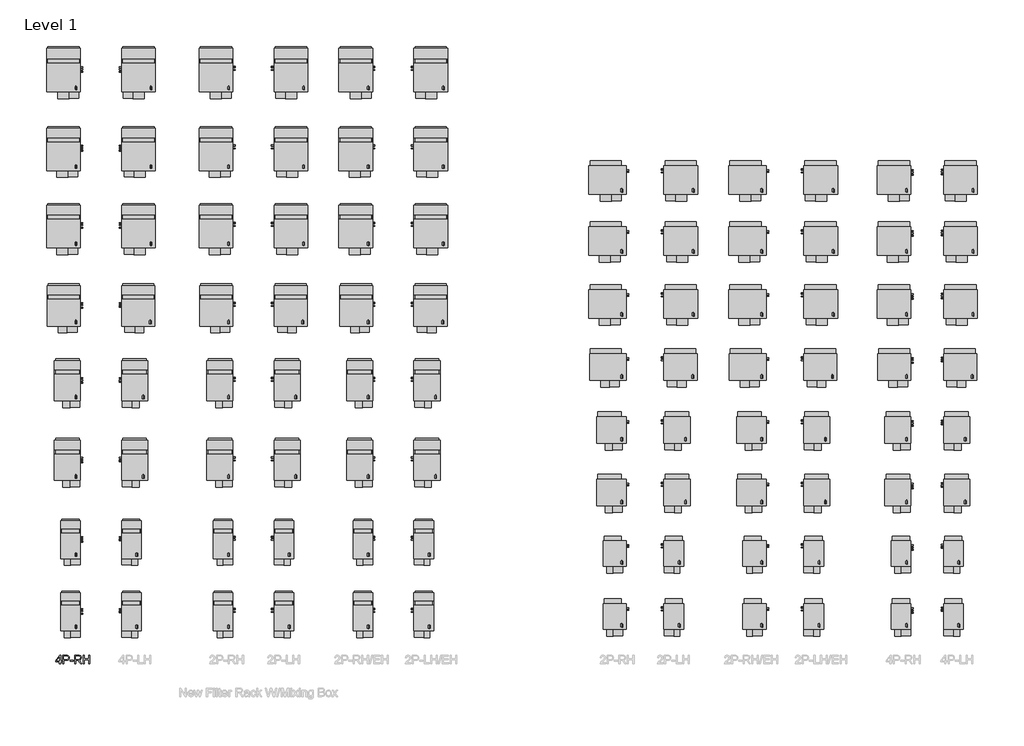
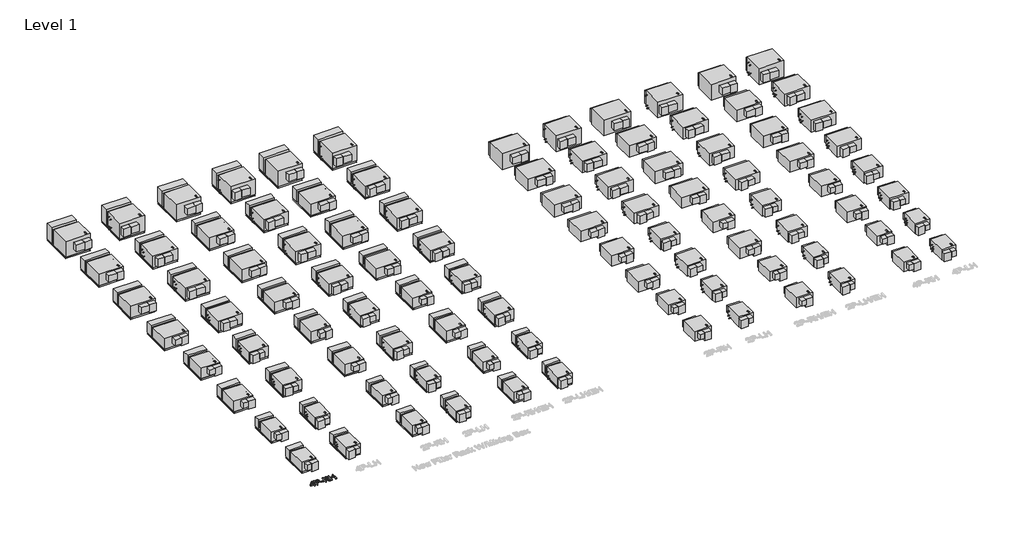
# One storey, part 1 of 3: 97 proxies.
"""IFC4 building model written with IfcOpenShell, lengths in millimetres."""

from ifc_helpers import new_model, si_unit, frame, origin, place, context, project, spatial, polyline, outline, extrude, transform, mapped, element, save
from components import mechanical_equipment_8757fcb0, mechanical_equipment_e5999960, mechanical_equipment_8dee2617, mechanical_equipment_acc0227f, mechanical_equipment_dd2f1071, mechanical_equipment_03528db8, mechanical_equipment_3913f591, mechanical_equipment_24ed6f7e, mechanical_equipment_7bdb9abd, mechanical_equipment_6c92dabb, mechanical_equipment_558debcf, mechanical_equipment_31d6afd8, mechanical_equipment_201a702f, mechanical_equipment_2c99bc06, mechanical_equipment_42976cbd, mechanical_equipment_1f7e3544, mechanical_equipment_957e46f4, mechanical_equipment_002d5dee, mechanical_equipment_a58ec341, mechanical_equipment_0533dc98, mechanical_equipment_0df3803a, mechanical_equipment_ec97a2d1, mechanical_equipment_5c8f0047, mechanical_equipment_04050eff, mechanical_equipment_0cbba81f, mechanical_equipment_6d997ccb, mechanical_equipment_a0d32894, mechanical_equipment_fb961167, mechanical_equipment_b7b7ae08, mechanical_equipment_c2c5c093, mechanical_equipment_a33fc95e, mechanical_equipment_a2eb8fe1, mechanical_equipment_3e75f2be, mechanical_equipment_6e24a03b, mechanical_equipment_debe2f92, mechanical_equipment_fb196a7a, mechanical_equipment_6874a00f, mechanical_equipment_16203f2d, mechanical_equipment_916fd69d, mechanical_equipment_2c5130ff

model = new_model("IFC4")

# Units and contexts
model_context = context("Model", 3, world=origin())
ifc_project = project(units=[si_unit("LENGTHUNIT", "METRE", prefix="MILLI")], contexts=[model_context])

# Site, building, storey
site = spatial("IfcSite", under=ifc_project)
building = spatial("IfcBuilding", under=site)
storey = spatial("IfcBuildingStorey", under=building, Name="Level 1", Elevation=0.0)

# Proxies
placement = place(None, origin())
mechanical_equipment_shape = mechanical_equipment_8757fcb0(model_context)
element("IfcBuildingElementProxy", 1, Name="Horizontal_Direct_Drive_Blower_Coil_Unit_-_HDY_-_IEC_-_2-Pipe_Cool-EHeat_LH_2022 : Size 06 - 460v/60Hz/3Ph - 8 Row 6.0kW LH", ObjectType="Horizontal_Direct_Drive_Blower_Coil_Unit_-_HDY_-_IEC_-_2-Pipe_Cool-EHeat_LH_2022 : Size 06 - 460v/60Hz/3Ph - 8 Row 6.0kW LH", at=placement, inside=storey, context=model_context, shape_type="MappedRepresentation", body=[
    mapped(mechanical_equipment_shape, transform((-13746.5319562, -11276.088413, 0.0), x_axis=(1.0, 0.0, 0.0), y_axis=(0.0, 1.0, 0.0), z_axis=(0.0, 0.0, 1.0))),
])
element("IfcBuildingElementProxy", 2, Name="Horizontal_Direct_Drive_Blower_Coil_Unit_-_HDY_-_IEC_-_2-Pipe_Cool-EHeat_LH_2022 : Size 08 - 460v/60Hz/3Ph - 8 Row 8.0kW LH", ObjectType="Horizontal_Direct_Drive_Blower_Coil_Unit_-_HDY_-_IEC_-_2-Pipe_Cool-EHeat_LH_2022 : Size 08 - 460v/60Hz/3Ph - 8 Row 8.0kW LH", at=placement, inside=storey, context=model_context, shape_type="MappedRepresentation", body=[
    mapped(mechanical_equipment_shape, transform((-13746.5319562, -9011.7611308, 0.0), x_axis=(1.0, 0.0, 0.0), y_axis=(0.0, 1.0, 0.0), z_axis=(0.0, 0.0, 1.0))),
])
mechanical_equipment_2_shape = mechanical_equipment_e5999960(model_context)
element("IfcBuildingElementProxy", 3, Name="Horizontal_Direct_Drive_Blower_Coil_Unit_-_HDY_-_IEC_-_2-Pipe_Cool-EHeat_LH_2022 : Size 10 - 460v/60Hz/3Ph - 8 Row 9.9kW LH", ObjectType="Horizontal_Direct_Drive_Blower_Coil_Unit_-_HDY_-_IEC_-_2-Pipe_Cool-EHeat_LH_2022 : Size 10 - 460v/60Hz/3Ph - 8 Row 9.9kW LH", at=placement, inside=storey, context=model_context, shape_type="MappedRepresentation", body=[
    mapped(mechanical_equipment_2_shape, transform((-13746.5319562, -6799.1440762, 0.0), x_axis=(1.0, 0.0, 0.0), y_axis=(0.0, 1.0, 0.0), z_axis=(0.0, 0.0, 1.0))),
])
element("IfcBuildingElementProxy", 4, Name="Horizontal_Direct_Drive_Blower_Coil_Unit_-_HDY_-_IEC_-_2-Pipe_Cool-EHeat_LH_2022 : Size 12 - 460v/60Hz/3Ph - 8 Row 12.0kW LH", ObjectType="Horizontal_Direct_Drive_Blower_Coil_Unit_-_HDY_-_IEC_-_2-Pipe_Cool-EHeat_LH_2022 : Size 12 - 460v/60Hz/3Ph - 8 Row 12.0kW LH", at=placement, inside=storey, context=model_context, shape_type="MappedRepresentation", body=[
    mapped(mechanical_equipment_2_shape, transform((-13746.5319562, -4546.6101653, 0.0), x_axis=(1.0, 0.0, 0.0), y_axis=(0.0, 1.0, 0.0), z_axis=(0.0, 0.0, 1.0))),
])
mechanical_equipment_3_shape = mechanical_equipment_8dee2617(model_context)
element("IfcBuildingElementProxy", 5, Name="Horizontal_Direct_Drive_Blower_Coil_Unit_-_HDY_-_IEC_-_2-Pipe_Cool-EHeat_LH_2022 : Size 16 - 460v/60Hz/3Ph - 8 Row 16.0kW LH", ObjectType="Horizontal_Direct_Drive_Blower_Coil_Unit_-_HDY_-_IEC_-_2-Pipe_Cool-EHeat_LH_2022 : Size 16 - 460v/60Hz/3Ph - 8 Row 16.0kW LH", at=placement, inside=storey, context=model_context, shape_type="MappedRepresentation", body=[
    mapped(mechanical_equipment_3_shape, transform((-13746.5319562, -2279.1078831, 0.0), x_axis=(1.0, 0.0, 0.0), y_axis=(0.0, 1.0, 0.0), z_axis=(0.0, 0.0, 1.0))),
])
mechanical_equipment_4_shape = mechanical_equipment_acc0227f(model_context)
element("IfcBuildingElementProxy", 6, Name="Horizontal_Direct_Drive_Blower_Coil_Unit_-_HDY_-_IEC_-_2-Pipe_Cool-EHeat_LH_2022 : Size 20 - 460v/60Hz/3Ph - 8 Row 19.9kW LH", ObjectType="Horizontal_Direct_Drive_Blower_Coil_Unit_-_HDY_-_IEC_-_2-Pipe_Cool-EHeat_LH_2022 : Size 20 - 460v/60Hz/3Ph - 8 Row 19.9kW LH", at=placement, inside=storey, context=model_context, shape_type="MappedRepresentation", body=[
    mapped(mechanical_equipment_4_shape, transform((-13746.5319562, 16.969399, 0.0), x_axis=(1.0, 0.0, 0.0), y_axis=(0.0, 1.0, 0.0), z_axis=(0.0, 0.0, 1.0))),
])
element("IfcBuildingElementProxy", 7, Name="Horizontal_Direct_Drive_Blower_Coil_Unit_-_HDY_-_IEC_-_2-Pipe_Cool-EHeat_LH_2022 : Size 22 - 460v/60Hz/3Ph - 8 Row 19.9kW LH", ObjectType="Horizontal_Direct_Drive_Blower_Coil_Unit_-_HDY_-_IEC_-_2-Pipe_Cool-EHeat_LH_2022 : Size 22 - 460v/60Hz/3Ph - 8 Row 19.9kW LH", at=placement, inside=storey, context=model_context, shape_type="MappedRepresentation", body=[
    mapped(mechanical_equipment_4_shape, transform((-13746.5319562, 2283.6722345, 0.0), x_axis=(1.0, 0.0, 0.0), y_axis=(0.0, 1.0, 0.0), z_axis=(0.0, 0.0, 1.0))),
])
mechanical_equipment_5_shape = mechanical_equipment_dd2f1071(model_context)
element("IfcBuildingElementProxy", 8, Name="Horizontal_Direct_Drive_Blower_Coil_Unit_-_HDY_-_IEC_-_2-Pipe_Cool-EHeat_LH_2022 : Size 30 - 460v/60Hz/3Ph - 8 Row 30.0kW LH", ObjectType="Horizontal_Direct_Drive_Blower_Coil_Unit_-_HDY_-_IEC_-_2-Pipe_Cool-EHeat_LH_2022 : Size 30 - 460v/60Hz/3Ph - 8 Row 30.0kW LH", at=placement, inside=storey, context=model_context, shape_type="MappedRepresentation", body=[
    mapped(mechanical_equipment_5_shape, transform((-13746.5319562, 4477.8237983, 0.0), x_axis=(1.0, 0.0, 0.0), y_axis=(0.0, 1.0, 0.0), z_axis=(0.0, 0.0, 1.0))),
])
mechanical_equipment_6_shape = mechanical_equipment_03528db8(model_context)
element("IfcBuildingElementProxy", 9, Name="Horizontal_Direct_Drive_Blower_Coil_Unit_-_HDY_-_IEC_-_2-Pipe_Cool-EHeat_RH_2022 : Size 06 - 460v/60Hz/3Ph - 8 Row 6.0kW", ObjectType="Horizontal_Direct_Drive_Blower_Coil_Unit_-_HDY_-_IEC_-_2-Pipe_Cool-EHeat_RH_2022 : Size 06 - 460v/60Hz/3Ph - 8 Row 6.0kW", at=placement, inside=storey, context=model_context, shape_type="MappedRepresentation", body=[
    mapped(mechanical_equipment_6_shape, transform((-15935.274823, -11276.088413, 0.0), x_axis=(1.0, 0.0, 0.0), y_axis=(0.0, 1.0, 0.0), z_axis=(0.0, 0.0, 1.0))),
])
element("IfcBuildingElementProxy", 10, Name="Horizontal_Direct_Drive_Blower_Coil_Unit_-_HDY_-_IEC_-_2-Pipe_Cool-EHeat_RH_2022 : Size 08 - 460v/60Hz/3Ph - 8 Row 8.0kW", ObjectType="Horizontal_Direct_Drive_Blower_Coil_Unit_-_HDY_-_IEC_-_2-Pipe_Cool-EHeat_RH_2022 : Size 08 - 460v/60Hz/3Ph - 8 Row 8.0kW", at=placement, inside=storey, context=model_context, shape_type="MappedRepresentation", body=[
    mapped(mechanical_equipment_6_shape, transform((-15935.274823, -9011.7611308, 0.0), x_axis=(1.0, 0.0, 0.0), y_axis=(0.0, 1.0, 0.0), z_axis=(0.0, 0.0, 1.0))),
])
mechanical_equipment_7_shape = mechanical_equipment_3913f591(model_context)
element("IfcBuildingElementProxy", 11, Name="Horizontal_Direct_Drive_Blower_Coil_Unit_-_HDY_-_IEC_-_2-Pipe_Cool-EHeat_RH_2022 : Size 10 - 460v/60Hz/3Ph - 8 Row 9.9kW", ObjectType="Horizontal_Direct_Drive_Blower_Coil_Unit_-_HDY_-_IEC_-_2-Pipe_Cool-EHeat_RH_2022 : Size 10 - 460v/60Hz/3Ph - 8 Row 9.9kW", at=placement, inside=storey, context=model_context, shape_type="MappedRepresentation", body=[
    mapped(mechanical_equipment_7_shape, transform((-16163.874823, -6799.1440762, 0.0), x_axis=(1.0, 0.0, 0.0), y_axis=(0.0, 1.0, 0.0), z_axis=(0.0, 0.0, 1.0))),
])
element("IfcBuildingElementProxy", 12, Name="Horizontal_Direct_Drive_Blower_Coil_Unit_-_HDY_-_IEC_-_2-Pipe_Cool-EHeat_RH_2022 : Size 12 - 460v/60Hz/3Ph - 8 Row 12.0kW", ObjectType="Horizontal_Direct_Drive_Blower_Coil_Unit_-_HDY_-_IEC_-_2-Pipe_Cool-EHeat_RH_2022 : Size 12 - 460v/60Hz/3Ph - 8 Row 12.0kW", at=placement, inside=storey, context=model_context, shape_type="MappedRepresentation", body=[
    mapped(mechanical_equipment_7_shape, transform((-16163.874823, -4546.6101653, 0.0), x_axis=(1.0, 0.0, 0.0), y_axis=(0.0, 1.0, 0.0), z_axis=(0.0, 0.0, 1.0))),
])
mechanical_equipment_8_shape = mechanical_equipment_24ed6f7e(model_context)
element("IfcBuildingElementProxy", 13, Name="Horizontal_Direct_Drive_Blower_Coil_Unit_-_HDY_-_IEC_-_2-Pipe_Cool-EHeat_RH_2022 : Size 16 - 460v/60Hz/3Ph - 8 Row 16.0kW", ObjectType="Horizontal_Direct_Drive_Blower_Coil_Unit_-_HDY_-_IEC_-_2-Pipe_Cool-EHeat_RH_2022 : Size 16 - 460v/60Hz/3Ph - 8 Row 16.0kW", at=placement, inside=storey, context=model_context, shape_type="MappedRepresentation", body=[
    mapped(mechanical_equipment_8_shape, transform((-16417.874823, -2279.1078831, 0.0), x_axis=(1.0, 0.0, 0.0), y_axis=(0.0, 1.0, 0.0), z_axis=(0.0, 0.0, 1.0))),
])
mechanical_equipment_9_shape = mechanical_equipment_7bdb9abd(model_context)
element("IfcBuildingElementProxy", 14, Name="Horizontal_Direct_Drive_Blower_Coil_Unit_-_HDY_-_IEC_-_2-Pipe_Cool-EHeat_RH_2022 : Size 20 - 460v/60Hz/3Ph - 8 Row 19.9kW", ObjectType="Horizontal_Direct_Drive_Blower_Coil_Unit_-_HDY_-_IEC_-_2-Pipe_Cool-EHeat_RH_2022 : Size 20 - 460v/60Hz/3Ph - 8 Row 19.9kW", at=placement, inside=storey, context=model_context, shape_type="MappedRepresentation", body=[
    mapped(mechanical_equipment_9_shape, transform((-16443.274823, 16.969399, 0.0), x_axis=(1.0, 0.0, 0.0), y_axis=(0.0, 1.0, 0.0), z_axis=(0.0, 0.0, 1.0))),
])
element("IfcBuildingElementProxy", 15, Name="Horizontal_Direct_Drive_Blower_Coil_Unit_-_HDY_-_IEC_-_2-Pipe_Cool-EHeat_RH_2022 : Size 22 - 460v/60Hz/3Ph - 8 Row 19.9kW", ObjectType="Horizontal_Direct_Drive_Blower_Coil_Unit_-_HDY_-_IEC_-_2-Pipe_Cool-EHeat_RH_2022 : Size 22 - 460v/60Hz/3Ph - 8 Row 19.9kW", at=placement, inside=storey, context=model_context, shape_type="MappedRepresentation", body=[
    mapped(mechanical_equipment_9_shape, transform((-16443.274823, 2283.6722345, 0.0), x_axis=(1.0, 0.0, 0.0), y_axis=(0.0, 1.0, 0.0), z_axis=(0.0, 0.0, 1.0))),
])
mechanical_equipment_10_shape = mechanical_equipment_6c92dabb(model_context)
element("IfcBuildingElementProxy", 16, Name="Horizontal_Direct_Drive_Blower_Coil_Unit_-_HDY_-_IEC_-_2-Pipe_Cool-EHeat_RH_2022 : Size 30 - 460v/60Hz/3Ph - 8 Row 30.0kW", ObjectType="Horizontal_Direct_Drive_Blower_Coil_Unit_-_HDY_-_IEC_-_2-Pipe_Cool-EHeat_RH_2022 : Size 30 - 460v/60Hz/3Ph - 8 Row 30.0kW", at=placement, inside=storey, context=model_context, shape_type="MappedRepresentation", body=[
    mapped(mechanical_equipment_10_shape, transform((-16443.274823, 4477.8237983, 0.0), x_axis=(1.0, 0.0, 0.0), y_axis=(0.0, 1.0, 0.0), z_axis=(0.0, 0.0, 1.0))),
])
mechanical_equipment_11_shape = mechanical_equipment_558debcf(model_context)
element("IfcBuildingElementProxy", 17, Name="Horizontal_Direct_Drive_Blower_Coil_Unit_-_HDY_-_IEC_-_4-Pipe_LH_2022 : Size 06 - 460v/60Hz/3Ph - 6/2 Coil", ObjectType="Horizontal_Direct_Drive_Blower_Coil_Unit_-_HDY_-_IEC_-_4-Pipe_LH_2022 : Size 06 - 460v/60Hz/3Ph - 6/2 Coil", at=placement, inside=storey, context=model_context, shape_type="MappedRepresentation", body=[
    mapped(mechanical_equipment_11_shape, transform((-8717.3319562, -11276.088413, 0.0), x_axis=(1.0, 0.0, 0.0), y_axis=(0.0, 1.0, 0.0), z_axis=(0.0, 0.0, 1.0))),
])
element("IfcBuildingElementProxy", 18, Name="Horizontal_Direct_Drive_Blower_Coil_Unit_-_HDY_-_IEC_-_4-Pipe_LH_2022 : Size 08 - 460v/60Hz/3Ph - 6/2 Coil", ObjectType="Horizontal_Direct_Drive_Blower_Coil_Unit_-_HDY_-_IEC_-_4-Pipe_LH_2022 : Size 08 - 460v/60Hz/3Ph - 6/2 Coil", at=placement, inside=storey, context=model_context, shape_type="MappedRepresentation", body=[
    mapped(mechanical_equipment_11_shape, transform((-8717.3319562, -9011.7611308, 0.0), x_axis=(1.0, 0.0, 0.0), y_axis=(0.0, 1.0, 0.0), z_axis=(0.0, 0.0, 1.0))),
])
mechanical_equipment_12_shape = mechanical_equipment_31d6afd8(model_context)
element("IfcBuildingElementProxy", 19, Name="Horizontal_Direct_Drive_Blower_Coil_Unit_-_HDY_-_IEC_-_4-Pipe_LH_2022 : Size 10 - 460v/60Hz/3Ph - 6/2 Coil", ObjectType="Horizontal_Direct_Drive_Blower_Coil_Unit_-_HDY_-_IEC_-_4-Pipe_LH_2022 : Size 10 - 460v/60Hz/3Ph - 6/2 Coil", at=placement, inside=storey, context=model_context, shape_type="MappedRepresentation", body=[
    mapped(mechanical_equipment_12_shape, transform((-8717.3319562, -6799.1440762, 0.0), x_axis=(1.0, 0.0, 0.0), y_axis=(0.0, 1.0, 0.0), z_axis=(0.0, 0.0, 1.0))),
])
element("IfcBuildingElementProxy", 20, Name="Horizontal_Direct_Drive_Blower_Coil_Unit_-_HDY_-_IEC_-_4-Pipe_LH_2022 : Size 12 - 460v/60Hz/3Ph - 6/2 Coil", ObjectType="Horizontal_Direct_Drive_Blower_Coil_Unit_-_HDY_-_IEC_-_4-Pipe_LH_2022 : Size 12 - 460v/60Hz/3Ph - 6/2 Coil", at=placement, inside=storey, context=model_context, shape_type="MappedRepresentation", body=[
    mapped(mechanical_equipment_12_shape, transform((-8717.3319562, -4546.6101653, 0.0), x_axis=(1.0, 0.0, 0.0), y_axis=(0.0, 1.0, 0.0), z_axis=(0.0, 0.0, 1.0))),
])
mechanical_equipment_13_shape = mechanical_equipment_201a702f(model_context)
element("IfcBuildingElementProxy", 21, Name="Horizontal_Direct_Drive_Blower_Coil_Unit_-_HDY_-_IEC_-_4-Pipe_LH_2022 : Size 16 - 460v/60Hz/3Ph - 6/2 Coil", ObjectType="Horizontal_Direct_Drive_Blower_Coil_Unit_-_HDY_-_IEC_-_4-Pipe_LH_2022 : Size 16 - 460v/60Hz/3Ph - 6/2 Coil", at=placement, inside=storey, context=model_context, shape_type="MappedRepresentation", body=[
    mapped(mechanical_equipment_13_shape, transform((-8717.3319562, -2279.1078831, 0.0), x_axis=(1.0, 0.0, 0.0), y_axis=(0.0, 1.0, 0.0), z_axis=(0.0, 0.0, 1.0))),
])
mechanical_equipment_14_shape = mechanical_equipment_2c99bc06(model_context)
element("IfcBuildingElementProxy", 22, Name="Horizontal_Direct_Drive_Blower_Coil_Unit_-_HDY_-_IEC_-_4-Pipe_LH_2022 : Size 20 - 460v/60Hz/3Ph - 6/2 Coil", ObjectType="Horizontal_Direct_Drive_Blower_Coil_Unit_-_HDY_-_IEC_-_4-Pipe_LH_2022 : Size 20 - 460v/60Hz/3Ph - 6/2 Coil", at=placement, inside=storey, context=model_context, shape_type="MappedRepresentation", body=[
    mapped(mechanical_equipment_14_shape, transform((-8717.3319562, 16.969399, 0.0), x_axis=(1.0, 0.0, 0.0), y_axis=(0.0, 1.0, 0.0), z_axis=(0.0, 0.0, 1.0))),
])
element("IfcBuildingElementProxy", 23, Name="Horizontal_Direct_Drive_Blower_Coil_Unit_-_HDY_-_IEC_-_4-Pipe_LH_2022 : Size 22 - 460v/60Hz/3Ph - 6/2 Coil", ObjectType="Horizontal_Direct_Drive_Blower_Coil_Unit_-_HDY_-_IEC_-_4-Pipe_LH_2022 : Size 22 - 460v/60Hz/3Ph - 6/2 Coil", at=placement, inside=storey, context=model_context, shape_type="MappedRepresentation", body=[
    mapped(mechanical_equipment_14_shape, transform((-8717.3319562, 2283.6722345, 0.0), x_axis=(1.0, 0.0, 0.0), y_axis=(0.0, 1.0, 0.0), z_axis=(0.0, 0.0, 1.0))),
])
mechanical_equipment_15_shape = mechanical_equipment_42976cbd(model_context)
element("IfcBuildingElementProxy", 24, Name="Horizontal_Direct_Drive_Blower_Coil_Unit_-_HDY_-_IEC_-_4-Pipe_LH_2022 : Size 30 - 460v/60Hz/3Ph - 6/2 Coil", ObjectType="Horizontal_Direct_Drive_Blower_Coil_Unit_-_HDY_-_IEC_-_4-Pipe_LH_2022 : Size 30 - 460v/60Hz/3Ph - 6/2 Coil", at=placement, inside=storey, context=model_context, shape_type="MappedRepresentation", body=[
    mapped(mechanical_equipment_15_shape, transform((-8717.3319562, 4477.8237983, 0.0), x_axis=(1.0, 0.0, 0.0), y_axis=(0.0, 1.0, 0.0), z_axis=(0.0, 0.0, 1.0))),
])
mechanical_equipment_16_shape = mechanical_equipment_1f7e3544(model_context)
element("IfcBuildingElementProxy", 25, Name="Horizontal_Direct_Drive_Blower_Coil_Unit_-_HDY_-_IEC_-_4-Pipe_RH_2022 : Size 06 - 460v/60Hz/3Ph - 6/2 Coil", ObjectType="Horizontal_Direct_Drive_Blower_Coil_Unit_-_HDY_-_IEC_-_4-Pipe_RH_2022 : Size 06 - 460v/60Hz/3Ph - 6/2 Coil", at=placement, inside=storey, context=model_context, shape_type="MappedRepresentation", body=[
    mapped(mechanical_equipment_16_shape, transform((-10601.274823, -11276.088413, 0.0), x_axis=(1.0, 0.0, 0.0), y_axis=(0.0, 1.0, 0.0), z_axis=(0.0, 0.0, 1.0))),
])
element("IfcBuildingElementProxy", 26, Name="Horizontal_Direct_Drive_Blower_Coil_Unit_-_HDY_-_IEC_-_4-Pipe_RH_2022 : Size 08 - 460v/60Hz/3Ph - 6/2 Coil", ObjectType="Horizontal_Direct_Drive_Blower_Coil_Unit_-_HDY_-_IEC_-_4-Pipe_RH_2022 : Size 08 - 460v/60Hz/3Ph - 6/2 Coil", at=placement, inside=storey, context=model_context, shape_type="MappedRepresentation", body=[
    mapped(mechanical_equipment_16_shape, transform((-10601.274823, -9011.7611308, 0.0), x_axis=(1.0, 0.0, 0.0), y_axis=(0.0, 1.0, 0.0), z_axis=(0.0, 0.0, 1.0))),
])
mechanical_equipment_17_shape = mechanical_equipment_957e46f4(model_context)
element("IfcBuildingElementProxy", 27, Name="Horizontal_Direct_Drive_Blower_Coil_Unit_-_HDY_-_IEC_-_4-Pipe_RH_2022 : Size 10 - 460v/60Hz/3Ph - 6/2 Coil", ObjectType="Horizontal_Direct_Drive_Blower_Coil_Unit_-_HDY_-_IEC_-_4-Pipe_RH_2022 : Size 10 - 460v/60Hz/3Ph - 6/2 Coil", at=placement, inside=storey, context=model_context, shape_type="MappedRepresentation", body=[
    mapped(mechanical_equipment_17_shape, transform((-10829.874823, -6799.1440762, 0.0), x_axis=(1.0, 0.0, 0.0), y_axis=(0.0, 1.0, 0.0), z_axis=(0.0, 0.0, 1.0))),
])
element("IfcBuildingElementProxy", 28, Name="Horizontal_Direct_Drive_Blower_Coil_Unit_-_HDY_-_IEC_-_4-Pipe_RH_2022 : Size 12 - 460v/60Hz/3Ph - 6/2 Coil", ObjectType="Horizontal_Direct_Drive_Blower_Coil_Unit_-_HDY_-_IEC_-_4-Pipe_RH_2022 : Size 12 - 460v/60Hz/3Ph - 6/2 Coil", at=placement, inside=storey, context=model_context, shape_type="MappedRepresentation", body=[
    mapped(mechanical_equipment_17_shape, transform((-10829.874823, -4546.6101653, 0.0), x_axis=(1.0, 0.0, 0.0), y_axis=(0.0, 1.0, 0.0), z_axis=(0.0, 0.0, 1.0))),
])
mechanical_equipment_18_shape = mechanical_equipment_002d5dee(model_context)
element("IfcBuildingElementProxy", 29, Name="Horizontal_Direct_Drive_Blower_Coil_Unit_-_HDY_-_IEC_-_4-Pipe_RH_2022 : Size 16 - 460v/60Hz/3Ph - 6/2 Coil", ObjectType="Horizontal_Direct_Drive_Blower_Coil_Unit_-_HDY_-_IEC_-_4-Pipe_RH_2022 : Size 16 - 460v/60Hz/3Ph - 6/2 Coil", at=placement, inside=storey, context=model_context, shape_type="MappedRepresentation", body=[
    mapped(mechanical_equipment_18_shape, transform((-11083.874823, -2279.1078831, 0.0), x_axis=(1.0, 0.0, 0.0), y_axis=(0.0, 1.0, 0.0), z_axis=(0.0, 0.0, 1.0))),
])
mechanical_equipment_19_shape = mechanical_equipment_a58ec341(model_context)
element("IfcBuildingElementProxy", 30, Name="Horizontal_Direct_Drive_Blower_Coil_Unit_-_HDY_-_IEC_-_4-Pipe_RH_2022 : Size 20 - 460v/60Hz/3Ph - 6/2 Coil", ObjectType="Horizontal_Direct_Drive_Blower_Coil_Unit_-_HDY_-_IEC_-_4-Pipe_RH_2022 : Size 20 - 460v/60Hz/3Ph - 6/2 Coil", at=placement, inside=storey, context=model_context, shape_type="MappedRepresentation", body=[
    mapped(mechanical_equipment_19_shape, transform((-11109.274823, 16.969399, 0.0), x_axis=(1.0, 0.0, 0.0), y_axis=(0.0, 1.0, 0.0), z_axis=(0.0, 0.0, 1.0))),
])
element("IfcBuildingElementProxy", 31, Name="Horizontal_Direct_Drive_Blower_Coil_Unit_-_HDY_-_IEC_-_4-Pipe_RH_2022 : Size 22 - 460v/60Hz/3Ph - 6/2 Coil", ObjectType="Horizontal_Direct_Drive_Blower_Coil_Unit_-_HDY_-_IEC_-_4-Pipe_RH_2022 : Size 22 - 460v/60Hz/3Ph - 6/2 Coil", at=placement, inside=storey, context=model_context, shape_type="MappedRepresentation", body=[
    mapped(mechanical_equipment_19_shape, transform((-11109.274823, 2283.6722345, 0.0), x_axis=(1.0, 0.0, 0.0), y_axis=(0.0, 1.0, 0.0), z_axis=(0.0, 0.0, 1.0))),
])
mechanical_equipment_20_shape = mechanical_equipment_0533dc98(model_context)
element("IfcBuildingElementProxy", 32, Name="Horizontal_Direct_Drive_Blower_Coil_Unit_-_HDY_-_IEC_-_4-Pipe_RH_2022 : Size 30 - 460v/60Hz/3Ph - 6/2 Coil", ObjectType="Horizontal_Direct_Drive_Blower_Coil_Unit_-_HDY_-_IEC_-_4-Pipe_RH_2022 : Size 30 - 460v/60Hz/3Ph - 6/2 Coil", at=placement, inside=storey, context=model_context, shape_type="MappedRepresentation", body=[
    mapped(mechanical_equipment_20_shape, transform((-11109.274823, 4477.8237983, 0.0), x_axis=(1.0, 0.0, 0.0), y_axis=(0.0, 1.0, 0.0), z_axis=(0.0, 0.0, 1.0))),
])
element("IfcBuildingElementProxy", 33, Name="Horizontal_Direct_Drive_Blower_Coil_Unit_-_HDY_-_IEC_-_2-Pipe_LH_2022 : Size 06 - 460v/60Hz/3Ph - 8 Row 1.0kW LH", ObjectType="Horizontal_Direct_Drive_Blower_Coil_Unit_-_HDY_-_IEC_-_2-Pipe_LH_2022 : Size 06 - 460v/60Hz/3Ph - 8 Row 1.0kW LH", at=placement, inside=storey, context=model_context, shape_type="MappedRepresentation", body=[
    mapped(mechanical_equipment_shape, transform((-18775.7319562, -11276.088413, 0.0), x_axis=(1.0, 0.0, 0.0), y_axis=(0.0, 1.0, 0.0), z_axis=(0.0, 0.0, 1.0))),
])
element("IfcBuildingElementProxy", 34, Name="Horizontal_Direct_Drive_Blower_Coil_Unit_-_HDY_-_IEC_-_2-Pipe_LH_2022 : Size 08 - 460v/60Hz/3Ph - 8 Row 1.0kW LH", ObjectType="Horizontal_Direct_Drive_Blower_Coil_Unit_-_HDY_-_IEC_-_2-Pipe_LH_2022 : Size 08 - 460v/60Hz/3Ph - 8 Row 1.0kW LH", at=placement, inside=storey, context=model_context, shape_type="MappedRepresentation", body=[
    mapped(mechanical_equipment_shape, transform((-18775.7319562, -9011.7611308, 0.0), x_axis=(1.0, 0.0, 0.0), y_axis=(0.0, 1.0, 0.0), z_axis=(0.0, 0.0, 1.0))),
])
element("IfcBuildingElementProxy", 35, Name="Horizontal_Direct_Drive_Blower_Coil_Unit_-_HDY_-_IEC_-_2-Pipe_LH_2022 : Size 10 - 460v/60Hz/3Ph - 8 Row 1.5kW LH", ObjectType="Horizontal_Direct_Drive_Blower_Coil_Unit_-_HDY_-_IEC_-_2-Pipe_LH_2022 : Size 10 - 460v/60Hz/3Ph - 8 Row 1.5kW LH", at=placement, inside=storey, context=model_context, shape_type="MappedRepresentation", body=[
    mapped(mechanical_equipment_2_shape, transform((-18775.7319562, -6799.1440762, 0.0), x_axis=(1.0, 0.0, 0.0), y_axis=(0.0, 1.0, 0.0), z_axis=(0.0, 0.0, 1.0))),
])
element("IfcBuildingElementProxy", 36, Name="Horizontal_Direct_Drive_Blower_Coil_Unit_-_HDY_-_IEC_-_2-Pipe_LH_2022 : Size 12 - 460v/60Hz/3Ph - 8 Row 1.5kW LH", ObjectType="Horizontal_Direct_Drive_Blower_Coil_Unit_-_HDY_-_IEC_-_2-Pipe_LH_2022 : Size 12 - 460v/60Hz/3Ph - 8 Row 1.5kW LH", at=placement, inside=storey, context=model_context, shape_type="MappedRepresentation", body=[
    mapped(mechanical_equipment_2_shape, transform((-18775.7319562, -4546.6101653, 0.0), x_axis=(1.0, 0.0, 0.0), y_axis=(0.0, 1.0, 0.0), z_axis=(0.0, 0.0, 1.0))),
])
element("IfcBuildingElementProxy", 37, Name="Horizontal_Direct_Drive_Blower_Coil_Unit_-_HDY_-_IEC_-_2-Pipe_LH_2022 : Size 16 - 460v/60Hz/3Ph - 8 Row 2.5kW LH", ObjectType="Horizontal_Direct_Drive_Blower_Coil_Unit_-_HDY_-_IEC_-_2-Pipe_LH_2022 : Size 16 - 460v/60Hz/3Ph - 8 Row 2.5kW LH", at=placement, inside=storey, context=model_context, shape_type="MappedRepresentation", body=[
    mapped(mechanical_equipment_3_shape, transform((-18775.7319562, -2279.1078831, 0.0), x_axis=(1.0, 0.0, 0.0), y_axis=(0.0, 1.0, 0.0), z_axis=(0.0, 0.0, 1.0))),
])
element("IfcBuildingElementProxy", 38, Name="Horizontal_Direct_Drive_Blower_Coil_Unit_-_HDY_-_IEC_-_2-Pipe_LH_2022 : Size 20 - 460v/60Hz/3Ph - 8 Row 3.5kW LH", ObjectType="Horizontal_Direct_Drive_Blower_Coil_Unit_-_HDY_-_IEC_-_2-Pipe_LH_2022 : Size 20 - 460v/60Hz/3Ph - 8 Row 3.5kW LH", at=placement, inside=storey, context=model_context, shape_type="MappedRepresentation", body=[
    mapped(mechanical_equipment_4_shape, transform((-18775.7319562, 16.969399, 0.0), x_axis=(1.0, 0.0, 0.0), y_axis=(0.0, 1.0, 0.0), z_axis=(0.0, 0.0, 1.0))),
])
element("IfcBuildingElementProxy", 39, Name="Horizontal_Direct_Drive_Blower_Coil_Unit_-_HDY_-_IEC_-_2-Pipe_LH_2022 : Size 22 - 460v/60Hz/3Ph - 8 Row 3.5kW LH", ObjectType="Horizontal_Direct_Drive_Blower_Coil_Unit_-_HDY_-_IEC_-_2-Pipe_LH_2022 : Size 22 - 460v/60Hz/3Ph - 8 Row 3.5kW LH", at=placement, inside=storey, context=model_context, shape_type="MappedRepresentation", body=[
    mapped(mechanical_equipment_4_shape, transform((-18775.7319562, 2283.6722345, 0.0), x_axis=(1.0, 0.0, 0.0), y_axis=(0.0, 1.0, 0.0), z_axis=(0.0, 0.0, 1.0))),
])
element("IfcBuildingElementProxy", 40, Name="Horizontal_Direct_Drive_Blower_Coil_Unit_-_HDY_-_IEC_-_2-Pipe_LH_2022 : Size 30 - 460v/60Hz/3Ph - 8 Row 6.0kW LH", ObjectType="Horizontal_Direct_Drive_Blower_Coil_Unit_-_HDY_-_IEC_-_2-Pipe_LH_2022 : Size 30 - 460v/60Hz/3Ph - 8 Row 6.0kW LH", at=placement, inside=storey, context=model_context, shape_type="MappedRepresentation", body=[
    mapped(mechanical_equipment_5_shape, transform((-18775.7319562, 4477.8237983, 0.0), x_axis=(1.0, 0.0, 0.0), y_axis=(0.0, 1.0, 0.0), z_axis=(0.0, 0.0, 1.0))),
])
element("IfcBuildingElementProxy", 41, Name="Horizontal_Direct_Drive_Blower_Coil_Unit_-_HDY_-_IEC_-_2-Pipe_RH_2022 : Size 06 - 460v/60Hz/3Ph - 8 Row 6.0kW", ObjectType="Horizontal_Direct_Drive_Blower_Coil_Unit_-_HDY_-_IEC_-_2-Pipe_RH_2022 : Size 06 - 460v/60Hz/3Ph - 8 Row 6.0kW", at=placement, inside=storey, context=model_context, shape_type="MappedRepresentation", body=[
    mapped(mechanical_equipment_6_shape, transform((-20964.474823, -11276.088413, 0.0), x_axis=(1.0, 0.0, 0.0), y_axis=(0.0, 1.0, 0.0), z_axis=(0.0, 0.0, 1.0))),
])
element("IfcBuildingElementProxy", 42, Name="Horizontal_Direct_Drive_Blower_Coil_Unit_-_HDY_-_IEC_-_2-Pipe_RH_2022 : Size 08 - 460v/60Hz/3Ph - 8 Row 8.0kW", ObjectType="Horizontal_Direct_Drive_Blower_Coil_Unit_-_HDY_-_IEC_-_2-Pipe_RH_2022 : Size 08 - 460v/60Hz/3Ph - 8 Row 8.0kW", at=placement, inside=storey, context=model_context, shape_type="MappedRepresentation", body=[
    mapped(mechanical_equipment_6_shape, transform((-20964.474823, -9011.7611308, 0.0), x_axis=(1.0, 0.0, 0.0), y_axis=(0.0, 1.0, 0.0), z_axis=(0.0, 0.0, 1.0))),
])
element("IfcBuildingElementProxy", 43, Name="Horizontal_Direct_Drive_Blower_Coil_Unit_-_HDY_-_IEC_-_2-Pipe_RH_2022 : Size 10 - 460v/60Hz/3Ph - 8 Row 9.9kW", ObjectType="Horizontal_Direct_Drive_Blower_Coil_Unit_-_HDY_-_IEC_-_2-Pipe_RH_2022 : Size 10 - 460v/60Hz/3Ph - 8 Row 9.9kW", at=placement, inside=storey, context=model_context, shape_type="MappedRepresentation", body=[
    mapped(mechanical_equipment_7_shape, transform((-21193.074823, -6799.1440762, 0.0), x_axis=(1.0, 0.0, 0.0), y_axis=(0.0, 1.0, 0.0), z_axis=(0.0, 0.0, 1.0))),
])
element("IfcBuildingElementProxy", 44, Name="Horizontal_Direct_Drive_Blower_Coil_Unit_-_HDY_-_IEC_-_2-Pipe_RH_2022 : Size 12 - 460v/60Hz/3Ph - 8 Row 12.0kW", ObjectType="Horizontal_Direct_Drive_Blower_Coil_Unit_-_HDY_-_IEC_-_2-Pipe_RH_2022 : Size 12 - 460v/60Hz/3Ph - 8 Row 12.0kW", at=placement, inside=storey, context=model_context, shape_type="MappedRepresentation", body=[
    mapped(mechanical_equipment_7_shape, transform((-21193.074823, -4546.6101653, 0.0), x_axis=(1.0, 0.0, 0.0), y_axis=(0.0, 1.0, 0.0), z_axis=(0.0, 0.0, 1.0))),
])
element("IfcBuildingElementProxy", 45, Name="Horizontal_Direct_Drive_Blower_Coil_Unit_-_HDY_-_IEC_-_2-Pipe_RH_2022 : Size 16 - 460v/60Hz/3Ph - 8 Row 16.0kW", ObjectType="Horizontal_Direct_Drive_Blower_Coil_Unit_-_HDY_-_IEC_-_2-Pipe_RH_2022 : Size 16 - 460v/60Hz/3Ph - 8 Row 16.0kW", at=placement, inside=storey, context=model_context, shape_type="MappedRepresentation", body=[
    mapped(mechanical_equipment_8_shape, transform((-21447.074823, -2279.1078831, 0.0), x_axis=(1.0, 0.0, 0.0), y_axis=(0.0, 1.0, 0.0), z_axis=(0.0, 0.0, 1.0))),
])
element("IfcBuildingElementProxy", 46, Name="Horizontal_Direct_Drive_Blower_Coil_Unit_-_HDY_-_IEC_-_2-Pipe_RH_2022 : Size 20 - 460v/60Hz/3Ph - 8 Row 19.9kW", ObjectType="Horizontal_Direct_Drive_Blower_Coil_Unit_-_HDY_-_IEC_-_2-Pipe_RH_2022 : Size 20 - 460v/60Hz/3Ph - 8 Row 19.9kW", at=placement, inside=storey, context=model_context, shape_type="MappedRepresentation", body=[
    mapped(mechanical_equipment_9_shape, transform((-21472.474823, 16.969399, 0.0), x_axis=(1.0, 0.0, 0.0), y_axis=(0.0, 1.0, 0.0), z_axis=(0.0, 0.0, 1.0))),
])
element("IfcBuildingElementProxy", 47, Name="Horizontal_Direct_Drive_Blower_Coil_Unit_-_HDY_-_IEC_-_2-Pipe_RH_2022 : Size 22 - 460v/60Hz/3Ph - 8 Row 19.9kW", ObjectType="Horizontal_Direct_Drive_Blower_Coil_Unit_-_HDY_-_IEC_-_2-Pipe_RH_2022 : Size 22 - 460v/60Hz/3Ph - 8 Row 19.9kW", at=placement, inside=storey, context=model_context, shape_type="MappedRepresentation", body=[
    mapped(mechanical_equipment_9_shape, transform((-21472.474823, 2283.6722345, 0.0), x_axis=(1.0, 0.0, 0.0), y_axis=(0.0, 1.0, 0.0), z_axis=(0.0, 0.0, 1.0))),
])
element("IfcBuildingElementProxy", 48, Name="Horizontal_Direct_Drive_Blower_Coil_Unit_-_HDY_-_IEC_-_2-Pipe_RH_2022 : Size 30 - 460v/60Hz/3Ph - 8 Row 30.0kW", ObjectType="Horizontal_Direct_Drive_Blower_Coil_Unit_-_HDY_-_IEC_-_2-Pipe_RH_2022 : Size 30 - 460v/60Hz/3Ph - 8 Row 30.0kW", at=placement, inside=storey, context=model_context, shape_type="MappedRepresentation", body=[
    mapped(mechanical_equipment_10_shape, transform((-21472.474823, 4477.8237983, 0.0), x_axis=(1.0, 0.0, 0.0), y_axis=(0.0, 1.0, 0.0), z_axis=(0.0, 0.0, 1.0))),
])
mechanical_equipment_21_shape = mechanical_equipment_0df3803a(model_context)
element("IfcBuildingElementProxy", 49, Name="Horizontal_Direct_Drive_Blower_Coil_Unit_-_HDY_-_IEC_-_2-Pipe_Cool-EHeat_NFilterR_W-MixingBox_LH_2022 : Size 06 - 460v/60Hz/3Ph - 8 Row 6.0kW LH", ObjectType="Horizontal_Direct_Drive_Blower_Coil_Unit_-_HDY_-_IEC_-_2-Pipe_Cool-EHeat_NFilterR_W-MixingBox_LH_2022 : Size 06 - 460v/60Hz/3Ph - 8 Row 6.0kW LH", at=placement, inside=storey, context=model_context, shape_type="MappedRepresentation", body=[
    mapped(mechanical_equipment_21_shape, transform((-27767.3319562, -11326.888413, 0.0), x_axis=(1.0, 0.0, 0.0), y_axis=(0.0, 1.0, 0.0), z_axis=(0.0, 0.0, 1.0))),
])
element("IfcBuildingElementProxy", 50, Name="Horizontal_Direct_Drive_Blower_Coil_Unit_-_HDY_-_IEC_-_2-Pipe_Cool-EHeat_NFilterR_W-MixingBox_LH_2022 : Size 08 - 460v/60Hz/3Ph - 8 Row 8.0kW LH", ObjectType="Horizontal_Direct_Drive_Blower_Coil_Unit_-_HDY_-_IEC_-_2-Pipe_Cool-EHeat_NFilterR_W-MixingBox_LH_2022 : Size 08 - 460v/60Hz/3Ph - 8 Row 8.0kW LH", at=placement, inside=storey, context=model_context, shape_type="MappedRepresentation", body=[
    mapped(mechanical_equipment_21_shape, transform((-27767.3319562, -8732.3611308, 0.0), x_axis=(1.0, 0.0, 0.0), y_axis=(0.0, 1.0, 0.0), z_axis=(0.0, 0.0, 1.0))),
])
mechanical_equipment_22_shape = mechanical_equipment_ec97a2d1(model_context)
element("IfcBuildingElementProxy", 51, Name="Horizontal_Direct_Drive_Blower_Coil_Unit_-_HDY_-_IEC_-_2-Pipe_Cool-EHeat_NFilterR_W-MixingBox_LH_2022 : Size 10 - 460v/60Hz/3Ph - 8 Row 9.9kW LH", ObjectType="Horizontal_Direct_Drive_Blower_Coil_Unit_-_HDY_-_IEC_-_2-Pipe_Cool-EHeat_NFilterR_W-MixingBox_LH_2022 : Size 10 - 460v/60Hz/3Ph - 8 Row 9.9kW LH", at=placement, inside=storey, context=model_context, shape_type="MappedRepresentation", body=[
    mapped(mechanical_equipment_22_shape, transform((-27767.3319562, -5884.7440762, 0.0), x_axis=(1.0, 0.0, 0.0), y_axis=(0.0, 1.0, 0.0), z_axis=(0.0, 0.0, 1.0))),
])
element("IfcBuildingElementProxy", 52, Name="Horizontal_Direct_Drive_Blower_Coil_Unit_-_HDY_-_IEC_-_2-Pipe_Cool-EHeat_NFilterR_W-MixingBox_LH_2022 : Size 12 - 460v/60Hz/3Ph - 8 Row 12.0kW LH", ObjectType="Horizontal_Direct_Drive_Blower_Coil_Unit_-_HDY_-_IEC_-_2-Pipe_Cool-EHeat_NFilterR_W-MixingBox_LH_2022 : Size 12 - 460v/60Hz/3Ph - 8 Row 12.0kW LH", at=placement, inside=storey, context=model_context, shape_type="MappedRepresentation", body=[
    mapped(mechanical_equipment_22_shape, transform((-27767.3319562, -3022.6101653, 0.0), x_axis=(1.0, 0.0, 0.0), y_axis=(0.0, 1.0, 0.0), z_axis=(0.0, 0.0, 1.0))),
])
mechanical_equipment_23_shape = mechanical_equipment_5c8f0047(model_context)
element("IfcBuildingElementProxy", 53, Name="Horizontal_Direct_Drive_Blower_Coil_Unit_-_HDY_-_IEC_-_2-Pipe_Cool-EHeat_NFilterR_W-MixingBox_LH_2022 : Size 16 - 460v/60Hz/3Ph - 8 Row 16.0kW LH", ObjectType="Horizontal_Direct_Drive_Blower_Coil_Unit_-_HDY_-_IEC_-_2-Pipe_Cool-EHeat_NFilterR_W-MixingBox_LH_2022 : Size 16 - 460v/60Hz/3Ph - 8 Row 16.0kW LH", at=placement, inside=storey, context=model_context, shape_type="MappedRepresentation", body=[
    mapped(mechanical_equipment_23_shape, transform((-27767.3319562, -323.3078831, 0.0), x_axis=(1.0, 0.0, 0.0), y_axis=(0.0, 1.0, 0.0), z_axis=(0.0, 0.0, 1.0))),
])
mechanical_equipment_24_shape = mechanical_equipment_04050eff(model_context)
element("IfcBuildingElementProxy", 54, Name="Horizontal_Direct_Drive_Blower_Coil_Unit_-_HDY_-_IEC_-_2-Pipe_Cool-EHeat_NFilterR_W-MixingBox_LH_2022 : Size 20 - 460v/60Hz/3Ph - 8 Row 19.9kW LH", ObjectType="Horizontal_Direct_Drive_Blower_Coil_Unit_-_HDY_-_IEC_-_2-Pipe_Cool-EHeat_NFilterR_W-MixingBox_LH_2022 : Size 20 - 460v/60Hz/3Ph - 8 Row 19.9kW LH", at=placement, inside=storey, context=model_context, shape_type="MappedRepresentation", body=[
    mapped(mechanical_equipment_24_shape, transform((-27767.3319562, 2556.969399, 0.0), x_axis=(1.0, 0.0, 0.0), y_axis=(0.0, 1.0, 0.0), z_axis=(0.0, 0.0, 1.0))),
])
element("IfcBuildingElementProxy", 55, Name="Horizontal_Direct_Drive_Blower_Coil_Unit_-_HDY_-_IEC_-_2-Pipe_Cool-EHeat_NFilterR_W-MixingBox_LH_2022 : Size 22 - 460v/60Hz/3Ph - 8 Row 19.9kW LH", ObjectType="Horizontal_Direct_Drive_Blower_Coil_Unit_-_HDY_-_IEC_-_2-Pipe_Cool-EHeat_NFilterR_W-MixingBox_LH_2022 : Size 22 - 460v/60Hz/3Ph - 8 Row 19.9kW LH", at=placement, inside=storey, context=model_context, shape_type="MappedRepresentation", body=[
    mapped(mechanical_equipment_24_shape, transform((-27767.3319562, 5331.6722345, 0.0), x_axis=(1.0, 0.0, 0.0), y_axis=(0.0, 1.0, 0.0), z_axis=(0.0, 0.0, 1.0))),
])
mechanical_equipment_25_shape = mechanical_equipment_0cbba81f(model_context)
element("IfcBuildingElementProxy", 56, Name="Horizontal_Direct_Drive_Blower_Coil_Unit_-_HDY_-_IEC_-_2-Pipe_Cool-EHeat_NFilterR_W-MixingBox_LH_2022 : Size 30 - 460v/60Hz/3Ph - 8 Row 30.0kW LH", ObjectType="Horizontal_Direct_Drive_Blower_Coil_Unit_-_HDY_-_IEC_-_2-Pipe_Cool-EHeat_NFilterR_W-MixingBox_LH_2022 : Size 30 - 460v/60Hz/3Ph - 8 Row 30.0kW LH", at=placement, inside=storey, context=model_context, shape_type="MappedRepresentation", body=[
    mapped(mechanical_equipment_25_shape, transform((-27767.3319562, 8162.0937983, 0.0), x_axis=(1.0, 0.0, 0.0), y_axis=(0.0, 1.0, 0.0), z_axis=(0.0, 0.0, 1.0))),
])
mechanical_equipment_26_shape = mechanical_equipment_6d997ccb(model_context)
element("IfcBuildingElementProxy", 57, Name="Horizontal_Direct_Drive_Blower_Coil_Unit_-_HDY_-_IEC_-_2-Pipe_Cool-EHeat_NFilterR_W-MixingBox_RH_2022 : Size 06 - 460v/60Hz/3Ph - 8 Row 6.0kW LH", ObjectType="Horizontal_Direct_Drive_Blower_Coil_Unit_-_HDY_-_IEC_-_2-Pipe_Cool-EHeat_NFilterR_W-MixingBox_RH_2022 : Size 06 - 460v/60Hz/3Ph - 8 Row 6.0kW LH", at=placement, inside=storey, context=model_context, shape_type="MappedRepresentation", body=[
    mapped(mechanical_equipment_26_shape, transform((-29956.074823, -11326.888413, 0.0), x_axis=(1.0, 0.0, 0.0), y_axis=(0.0, 1.0, 0.0), z_axis=(0.0, 0.0, 1.0))),
])
element("IfcBuildingElementProxy", 58, Name="Horizontal_Direct_Drive_Blower_Coil_Unit_-_HDY_-_IEC_-_2-Pipe_Cool-EHeat_NFilterR_W-MixingBox_RH_2022 : Size 08 - 460v/60Hz/3Ph - 8 Row 8.0kW LH", ObjectType="Horizontal_Direct_Drive_Blower_Coil_Unit_-_HDY_-_IEC_-_2-Pipe_Cool-EHeat_NFilterR_W-MixingBox_RH_2022 : Size 08 - 460v/60Hz/3Ph - 8 Row 8.0kW LH", at=placement, inside=storey, context=model_context, shape_type="MappedRepresentation", body=[
    mapped(mechanical_equipment_26_shape, transform((-29956.074823, -8732.3611308, 0.0), x_axis=(1.0, 0.0, 0.0), y_axis=(0.0, 1.0, 0.0), z_axis=(0.0, 0.0, 1.0))),
])
mechanical_equipment_27_shape = mechanical_equipment_a0d32894(model_context)
element("IfcBuildingElementProxy", 59, Name="Horizontal_Direct_Drive_Blower_Coil_Unit_-_HDY_-_IEC_-_2-Pipe_Cool-EHeat_NFilterR_W-MixingBox_RH_2022 : Size 10 - 460v/60Hz/3Ph - 8 Row 9.9kW LH", ObjectType="Horizontal_Direct_Drive_Blower_Coil_Unit_-_HDY_-_IEC_-_2-Pipe_Cool-EHeat_NFilterR_W-MixingBox_RH_2022 : Size 10 - 460v/60Hz/3Ph - 8 Row 9.9kW LH", at=placement, inside=storey, context=model_context, shape_type="MappedRepresentation", body=[
    mapped(mechanical_equipment_27_shape, transform((-30184.674823, -5884.7440762, 0.0), x_axis=(1.0, 0.0, 0.0), y_axis=(0.0, 1.0, 0.0), z_axis=(0.0, 0.0, 1.0))),
])
element("IfcBuildingElementProxy", 60, Name="Horizontal_Direct_Drive_Blower_Coil_Unit_-_HDY_-_IEC_-_2-Pipe_Cool-EHeat_NFilterR_W-MixingBox_RH_2022 : Size 12 - 460v/60Hz/3Ph - 8 Row 12.0kW LH", ObjectType="Horizontal_Direct_Drive_Blower_Coil_Unit_-_HDY_-_IEC_-_2-Pipe_Cool-EHeat_NFilterR_W-MixingBox_RH_2022 : Size 12 - 460v/60Hz/3Ph - 8 Row 12.0kW LH", at=placement, inside=storey, context=model_context, shape_type="MappedRepresentation", body=[
    mapped(mechanical_equipment_27_shape, transform((-30184.674823, -3022.6101653, 0.0), x_axis=(1.0, 0.0, 0.0), y_axis=(0.0, 1.0, 0.0), z_axis=(0.0, 0.0, 1.0))),
])
mechanical_equipment_28_shape = mechanical_equipment_fb961167(model_context)
element("IfcBuildingElementProxy", 61, Name="Horizontal_Direct_Drive_Blower_Coil_Unit_-_HDY_-_IEC_-_2-Pipe_Cool-EHeat_NFilterR_W-MixingBox_RH_2022 : Size 16 - 460v/60Hz/3Ph - 8 Row 16.0kW LH", ObjectType="Horizontal_Direct_Drive_Blower_Coil_Unit_-_HDY_-_IEC_-_2-Pipe_Cool-EHeat_NFilterR_W-MixingBox_RH_2022 : Size 16 - 460v/60Hz/3Ph - 8 Row 16.0kW LH", at=placement, inside=storey, context=model_context, shape_type="MappedRepresentation", body=[
    mapped(mechanical_equipment_28_shape, transform((-30438.674823, -323.3078831, 0.0), x_axis=(1.0, 0.0, 0.0), y_axis=(0.0, 1.0, 0.0), z_axis=(0.0, 0.0, 1.0))),
])
mechanical_equipment_29_shape = mechanical_equipment_b7b7ae08(model_context)
element("IfcBuildingElementProxy", 62, Name="Horizontal_Direct_Drive_Blower_Coil_Unit_-_HDY_-_IEC_-_2-Pipe_Cool-EHeat_NFilterR_W-MixingBox_RH_2022 : Size 20 - 460v/60Hz/3Ph - 8 Row 19.9kW LH", ObjectType="Horizontal_Direct_Drive_Blower_Coil_Unit_-_HDY_-_IEC_-_2-Pipe_Cool-EHeat_NFilterR_W-MixingBox_RH_2022 : Size 20 - 460v/60Hz/3Ph - 8 Row 19.9kW LH", at=placement, inside=storey, context=model_context, shape_type="MappedRepresentation", body=[
    mapped(mechanical_equipment_29_shape, transform((-30464.074823, 2556.969399, 0.0), x_axis=(1.0, 0.0, 0.0), y_axis=(0.0, 1.0, 0.0), z_axis=(0.0, 0.0, 1.0))),
])
element("IfcBuildingElementProxy", 63, Name="Horizontal_Direct_Drive_Blower_Coil_Unit_-_HDY_-_IEC_-_2-Pipe_Cool-EHeat_NFilterR_W-MixingBox_RH_2022 : Size 22 - 460v/60Hz/3Ph - 8 Row 19.9kW LH", ObjectType="Horizontal_Direct_Drive_Blower_Coil_Unit_-_HDY_-_IEC_-_2-Pipe_Cool-EHeat_NFilterR_W-MixingBox_RH_2022 : Size 22 - 460v/60Hz/3Ph - 8 Row 19.9kW LH", at=placement, inside=storey, context=model_context, shape_type="MappedRepresentation", body=[
    mapped(mechanical_equipment_29_shape, transform((-30464.074823, 5331.6722345, 0.0), x_axis=(1.0, 0.0, 0.0), y_axis=(0.0, 1.0, 0.0), z_axis=(0.0, 0.0, 1.0))),
])
mechanical_equipment_30_shape = mechanical_equipment_c2c5c093(model_context)
element("IfcBuildingElementProxy", 64, Name="Horizontal_Direct_Drive_Blower_Coil_Unit_-_HDY_-_IEC_-_2-Pipe_Cool-EHeat_NFilterR_W-MixingBox_RH_2022 : Size 30 - 460v/60Hz/3Ph - 8 Row 30.0kW LH", ObjectType="Horizontal_Direct_Drive_Blower_Coil_Unit_-_HDY_-_IEC_-_2-Pipe_Cool-EHeat_NFilterR_W-MixingBox_RH_2022 : Size 30 - 460v/60Hz/3Ph - 8 Row 30.0kW LH", at=placement, inside=storey, context=model_context, shape_type="MappedRepresentation", body=[
    mapped(mechanical_equipment_30_shape, transform((-30464.074823, 8162.0937983, 0.0), x_axis=(1.0, 0.0, 0.0), y_axis=(0.0, 1.0, 0.0), z_axis=(0.0, 0.0, 1.0))),
])
element("IfcBuildingElementProxy", 65, Name="Horizontal_Direct_Drive_Blower_Coil_Unit_-_HDY_-_IEC_-_2-Pipe_NFilterR_W-MixingBox_LH_2022 : Size 06 - 460v/60Hz/3Ph - 8 Row 6.0kW LH", ObjectType="Horizontal_Direct_Drive_Blower_Coil_Unit_-_HDY_-_IEC_-_2-Pipe_NFilterR_W-MixingBox_LH_2022 : Size 06 - 460v/60Hz/3Ph - 8 Row 6.0kW LH", at=placement, inside=storey, context=model_context, shape_type="MappedRepresentation", body=[
    mapped(mechanical_equipment_21_shape, transform((-32796.5319562, -11326.888413, 0.0), x_axis=(1.0, 0.0, 0.0), y_axis=(0.0, 1.0, 0.0), z_axis=(0.0, 0.0, 1.0))),
])
element("IfcBuildingElementProxy", 66, Name="Horizontal_Direct_Drive_Blower_Coil_Unit_-_HDY_-_IEC_-_2-Pipe_NFilterR_W-MixingBox_LH_2022 : Size 08 - 460v/60Hz/3Ph - 8 Row 8.0kW LH", ObjectType="Horizontal_Direct_Drive_Blower_Coil_Unit_-_HDY_-_IEC_-_2-Pipe_NFilterR_W-MixingBox_LH_2022 : Size 08 - 460v/60Hz/3Ph - 8 Row 8.0kW LH", at=placement, inside=storey, context=model_context, shape_type="MappedRepresentation", body=[
    mapped(mechanical_equipment_21_shape, transform((-32796.5319562, -8732.3611308, 0.0), x_axis=(1.0, 0.0, 0.0), y_axis=(0.0, 1.0, 0.0), z_axis=(0.0, 0.0, 1.0))),
])
element("IfcBuildingElementProxy", 67, Name="Horizontal_Direct_Drive_Blower_Coil_Unit_-_HDY_-_IEC_-_2-Pipe_NFilterR_W-MixingBox_LH_2022 : Size 10 - 460v/60Hz/3Ph - 8 Row 9.9kW LH", ObjectType="Horizontal_Direct_Drive_Blower_Coil_Unit_-_HDY_-_IEC_-_2-Pipe_NFilterR_W-MixingBox_LH_2022 : Size 10 - 460v/60Hz/3Ph - 8 Row 9.9kW LH", at=placement, inside=storey, context=model_context, shape_type="MappedRepresentation", body=[
    mapped(mechanical_equipment_22_shape, transform((-32796.5319562, -5884.7440762, 0.0), x_axis=(1.0, 0.0, 0.0), y_axis=(0.0, 1.0, 0.0), z_axis=(0.0, 0.0, 1.0))),
])
element("IfcBuildingElementProxy", 68, Name="Horizontal_Direct_Drive_Blower_Coil_Unit_-_HDY_-_IEC_-_2-Pipe_NFilterR_W-MixingBox_LH_2022 : Size 12 - 460v/60Hz/3Ph - 8 Row 12.0kW LH", ObjectType="Horizontal_Direct_Drive_Blower_Coil_Unit_-_HDY_-_IEC_-_2-Pipe_NFilterR_W-MixingBox_LH_2022 : Size 12 - 460v/60Hz/3Ph - 8 Row 12.0kW LH", at=placement, inside=storey, context=model_context, shape_type="MappedRepresentation", body=[
    mapped(mechanical_equipment_22_shape, transform((-32796.5319562, -3022.6101653, 0.0), x_axis=(1.0, 0.0, 0.0), y_axis=(0.0, 1.0, 0.0), z_axis=(0.0, 0.0, 1.0))),
])
element("IfcBuildingElementProxy", 69, Name="Horizontal_Direct_Drive_Blower_Coil_Unit_-_HDY_-_IEC_-_2-Pipe_NFilterR_W-MixingBox_LH_2022 : Size 16 - 460v/60Hz/3Ph - 8 Row 16.0kW LH", ObjectType="Horizontal_Direct_Drive_Blower_Coil_Unit_-_HDY_-_IEC_-_2-Pipe_NFilterR_W-MixingBox_LH_2022 : Size 16 - 460v/60Hz/3Ph - 8 Row 16.0kW LH", at=placement, inside=storey, context=model_context, shape_type="MappedRepresentation", body=[
    mapped(mechanical_equipment_23_shape, transform((-32796.5319562, -323.3078831, 0.0), x_axis=(1.0, 0.0, 0.0), y_axis=(0.0, 1.0, 0.0), z_axis=(0.0, 0.0, 1.0))),
])
element("IfcBuildingElementProxy", 70, Name="Horizontal_Direct_Drive_Blower_Coil_Unit_-_HDY_-_IEC_-_2-Pipe_NFilterR_W-MixingBox_LH_2022 : Size 20 - 460v/60Hz/3Ph - 8 Row 19.9kW LH", ObjectType="Horizontal_Direct_Drive_Blower_Coil_Unit_-_HDY_-_IEC_-_2-Pipe_NFilterR_W-MixingBox_LH_2022 : Size 20 - 460v/60Hz/3Ph - 8 Row 19.9kW LH", at=placement, inside=storey, context=model_context, shape_type="MappedRepresentation", body=[
    mapped(mechanical_equipment_24_shape, transform((-32796.5319562, 2556.969399, 0.0), x_axis=(1.0, 0.0, 0.0), y_axis=(0.0, 1.0, 0.0), z_axis=(0.0, 0.0, 1.0))),
])
element("IfcBuildingElementProxy", 71, Name="Horizontal_Direct_Drive_Blower_Coil_Unit_-_HDY_-_IEC_-_2-Pipe_NFilterR_W-MixingBox_LH_2022 : Size 22 - 460v/60Hz/3Ph - 8 Row 19.9kW LH", ObjectType="Horizontal_Direct_Drive_Blower_Coil_Unit_-_HDY_-_IEC_-_2-Pipe_NFilterR_W-MixingBox_LH_2022 : Size 22 - 460v/60Hz/3Ph - 8 Row 19.9kW LH", at=placement, inside=storey, context=model_context, shape_type="MappedRepresentation", body=[
    mapped(mechanical_equipment_24_shape, transform((-32796.5319562, 5331.6722345, 0.0), x_axis=(1.0, 0.0, 0.0), y_axis=(0.0, 1.0, 0.0), z_axis=(0.0, 0.0, 1.0))),
])
element("IfcBuildingElementProxy", 72, Name="Horizontal_Direct_Drive_Blower_Coil_Unit_-_HDY_-_IEC_-_2-Pipe_NFilterR_W-MixingBox_LH_2022 : Size 30 - 460v/60Hz/3Ph - 8 Row 30.0kW LH", ObjectType="Horizontal_Direct_Drive_Blower_Coil_Unit_-_HDY_-_IEC_-_2-Pipe_NFilterR_W-MixingBox_LH_2022 : Size 30 - 460v/60Hz/3Ph - 8 Row 30.0kW LH", at=placement, inside=storey, context=model_context, shape_type="MappedRepresentation", body=[
    mapped(mechanical_equipment_25_shape, transform((-32796.5319562, 8162.0937983, 0.0), x_axis=(1.0, 0.0, 0.0), y_axis=(0.0, 1.0, 0.0), z_axis=(0.0, 0.0, 1.0))),
])
element("IfcBuildingElementProxy", 73, Name="Horizontal_Direct_Drive_Blower_Coil_Unit_-_HDY_-_IEC_-_2-Pipe_NFilterR_W-MixingBox_RH_2022 : Size 06 - 460v/60Hz/3Ph - 8 Row 6.0kW LH", ObjectType="Horizontal_Direct_Drive_Blower_Coil_Unit_-_HDY_-_IEC_-_2-Pipe_NFilterR_W-MixingBox_RH_2022 : Size 06 - 460v/60Hz/3Ph - 8 Row 6.0kW LH", at=placement, inside=storey, context=model_context, shape_type="MappedRepresentation", body=[
    mapped(mechanical_equipment_26_shape, transform((-34985.274823, -11326.888413, 0.0), x_axis=(1.0, 0.0, 0.0), y_axis=(0.0, 1.0, 0.0), z_axis=(0.0, 0.0, 1.0))),
])
element("IfcBuildingElementProxy", 74, Name="Horizontal_Direct_Drive_Blower_Coil_Unit_-_HDY_-_IEC_-_2-Pipe_NFilterR_W-MixingBox_RH_2022 : Size 08 - 460v/60Hz/3Ph - 8 Row 8.0kW LH", ObjectType="Horizontal_Direct_Drive_Blower_Coil_Unit_-_HDY_-_IEC_-_2-Pipe_NFilterR_W-MixingBox_RH_2022 : Size 08 - 460v/60Hz/3Ph - 8 Row 8.0kW LH", at=placement, inside=storey, context=model_context, shape_type="MappedRepresentation", body=[
    mapped(mechanical_equipment_26_shape, transform((-34985.274823, -8732.3611308, 0.0), x_axis=(1.0, 0.0, 0.0), y_axis=(0.0, 1.0, 0.0), z_axis=(0.0, 0.0, 1.0))),
])
element("IfcBuildingElementProxy", 75, Name="Horizontal_Direct_Drive_Blower_Coil_Unit_-_HDY_-_IEC_-_2-Pipe_NFilterR_W-MixingBox_RH_2022 : Size 10 - 460v/60Hz/3Ph - 8 Row 9.9kW LH", ObjectType="Horizontal_Direct_Drive_Blower_Coil_Unit_-_HDY_-_IEC_-_2-Pipe_NFilterR_W-MixingBox_RH_2022 : Size 10 - 460v/60Hz/3Ph - 8 Row 9.9kW LH", at=placement, inside=storey, context=model_context, shape_type="MappedRepresentation", body=[
    mapped(mechanical_equipment_27_shape, transform((-35213.874823, -5884.7440762, 0.0), x_axis=(1.0, 0.0, 0.0), y_axis=(0.0, 1.0, 0.0), z_axis=(0.0, 0.0, 1.0))),
])
element("IfcBuildingElementProxy", 76, Name="Horizontal_Direct_Drive_Blower_Coil_Unit_-_HDY_-_IEC_-_2-Pipe_NFilterR_W-MixingBox_RH_2022 : Size 12 - 460v/60Hz/3Ph - 8 Row 12.0kW LH", ObjectType="Horizontal_Direct_Drive_Blower_Coil_Unit_-_HDY_-_IEC_-_2-Pipe_NFilterR_W-MixingBox_RH_2022 : Size 12 - 460v/60Hz/3Ph - 8 Row 12.0kW LH", at=placement, inside=storey, context=model_context, shape_type="MappedRepresentation", body=[
    mapped(mechanical_equipment_27_shape, transform((-35213.874823, -3022.6101653, 0.0), x_axis=(1.0, 0.0, 0.0), y_axis=(0.0, 1.0, 0.0), z_axis=(0.0, 0.0, 1.0))),
])
element("IfcBuildingElementProxy", 77, Name="Horizontal_Direct_Drive_Blower_Coil_Unit_-_HDY_-_IEC_-_2-Pipe_NFilterR_W-MixingBox_RH_2022 : Size 16 - 460v/60Hz/3Ph - 8 Row 16.0kW LH", ObjectType="Horizontal_Direct_Drive_Blower_Coil_Unit_-_HDY_-_IEC_-_2-Pipe_NFilterR_W-MixingBox_RH_2022 : Size 16 - 460v/60Hz/3Ph - 8 Row 16.0kW LH", at=placement, inside=storey, context=model_context, shape_type="MappedRepresentation", body=[
    mapped(mechanical_equipment_28_shape, transform((-35467.874823, -323.3078831, 0.0), x_axis=(1.0, 0.0, 0.0), y_axis=(0.0, 1.0, 0.0), z_axis=(0.0, 0.0, 1.0))),
])
element("IfcBuildingElementProxy", 78, Name="Horizontal_Direct_Drive_Blower_Coil_Unit_-_HDY_-_IEC_-_2-Pipe_NFilterR_W-MixingBox_RH_2022 : Size 20 - 460v/60Hz/3Ph - 8 Row 19.9kW LH", ObjectType="Horizontal_Direct_Drive_Blower_Coil_Unit_-_HDY_-_IEC_-_2-Pipe_NFilterR_W-MixingBox_RH_2022 : Size 20 - 460v/60Hz/3Ph - 8 Row 19.9kW LH", at=placement, inside=storey, context=model_context, shape_type="MappedRepresentation", body=[
    mapped(mechanical_equipment_29_shape, transform((-35493.274823, 2556.969399, 0.0), x_axis=(1.0, 0.0, 0.0), y_axis=(0.0, 1.0, 0.0), z_axis=(0.0, 0.0, 1.0))),
])
element("IfcBuildingElementProxy", 79, Name="Horizontal_Direct_Drive_Blower_Coil_Unit_-_HDY_-_IEC_-_2-Pipe_NFilterR_W-MixingBox_RH_2022 : Size 22 - 460v/60Hz/3Ph - 8 Row 19.9kW LH", ObjectType="Horizontal_Direct_Drive_Blower_Coil_Unit_-_HDY_-_IEC_-_2-Pipe_NFilterR_W-MixingBox_RH_2022 : Size 22 - 460v/60Hz/3Ph - 8 Row 19.9kW LH", at=placement, inside=storey, context=model_context, shape_type="MappedRepresentation", body=[
    mapped(mechanical_equipment_29_shape, transform((-35493.274823, 5331.6722345, 0.0), x_axis=(1.0, 0.0, 0.0), y_axis=(0.0, 1.0, 0.0), z_axis=(0.0, 0.0, 1.0))),
])
element("IfcBuildingElementProxy", 80, Name="Horizontal_Direct_Drive_Blower_Coil_Unit_-_HDY_-_IEC_-_2-Pipe_NFilterR_W-MixingBox_RH_2022 : Size 30 - 460v/60Hz/3Ph - 8 Row 30.0kW LH", ObjectType="Horizontal_Direct_Drive_Blower_Coil_Unit_-_HDY_-_IEC_-_2-Pipe_NFilterR_W-MixingBox_RH_2022 : Size 30 - 460v/60Hz/3Ph - 8 Row 30.0kW LH", at=placement, inside=storey, context=model_context, shape_type="MappedRepresentation", body=[
    mapped(mechanical_equipment_30_shape, transform((-35493.274823, 8162.0937983, 0.0), x_axis=(1.0, 0.0, 0.0), y_axis=(0.0, 1.0, 0.0), z_axis=(0.0, 0.0, 1.0))),
])
mechanical_equipment_31_shape = mechanical_equipment_a33fc95e(model_context)
element("IfcBuildingElementProxy", 81, Name="Horizontal_Direct_Drive_Blower_Coil_Unit_-_HDY_-_IEC_-_4-Pipe_NFilterR_W-MixingBox_LH_2022 : Size 06 - 460v/60Hz/3Ph - 6/2 Coil", ObjectType="Horizontal_Direct_Drive_Blower_Coil_Unit_-_HDY_-_IEC_-_4-Pipe_NFilterR_W-MixingBox_LH_2022 : Size 06 - 460v/60Hz/3Ph - 6/2 Coil", at=placement, inside=storey, context=model_context, shape_type="MappedRepresentation", body=[
    mapped(mechanical_equipment_31_shape, transform((-38282.9319562, -11326.888413, 0.0), x_axis=(1.0, 0.0, 0.0), y_axis=(0.0, 1.0, 0.0), z_axis=(0.0, 0.0, 1.0))),
])
element("IfcBuildingElementProxy", 82, Name="Horizontal_Direct_Drive_Blower_Coil_Unit_-_HDY_-_IEC_-_4-Pipe_NFilterR_W-MixingBox_LH_2022 : Size 08 - 460v/60Hz/3Ph - 6/2 Coil", ObjectType="Horizontal_Direct_Drive_Blower_Coil_Unit_-_HDY_-_IEC_-_4-Pipe_NFilterR_W-MixingBox_LH_2022 : Size 08 - 460v/60Hz/3Ph - 6/2 Coil", at=placement, inside=storey, context=model_context, shape_type="MappedRepresentation", body=[
    mapped(mechanical_equipment_31_shape, transform((-38282.9319562, -8732.3611308, 0.0), x_axis=(1.0, 0.0, 0.0), y_axis=(0.0, 1.0, 0.0), z_axis=(0.0, 0.0, 1.0))),
])
mechanical_equipment_32_shape = mechanical_equipment_a2eb8fe1(model_context)
element("IfcBuildingElementProxy", 83, Name="Horizontal_Direct_Drive_Blower_Coil_Unit_-_HDY_-_IEC_-_4-Pipe_NFilterR_W-MixingBox_LH_2022 : Size 10 - 460v/60Hz/3Ph - 6/2 Coil", ObjectType="Horizontal_Direct_Drive_Blower_Coil_Unit_-_HDY_-_IEC_-_4-Pipe_NFilterR_W-MixingBox_LH_2022 : Size 10 - 460v/60Hz/3Ph - 6/2 Coil", at=placement, inside=storey, context=model_context, shape_type="MappedRepresentation", body=[
    mapped(mechanical_equipment_32_shape, transform((-38282.9319562, -5884.7440762, 0.0), x_axis=(1.0, 0.0, 0.0), y_axis=(0.0, 1.0, 0.0), z_axis=(0.0, 0.0, 1.0))),
])
element("IfcBuildingElementProxy", 84, Name="Horizontal_Direct_Drive_Blower_Coil_Unit_-_HDY_-_IEC_-_4-Pipe_NFilterR_W-MixingBox_LH_2022 : Size 12 - 460v/60Hz/3Ph - 6/2 Coil", ObjectType="Horizontal_Direct_Drive_Blower_Coil_Unit_-_HDY_-_IEC_-_4-Pipe_NFilterR_W-MixingBox_LH_2022 : Size 12 - 460v/60Hz/3Ph - 6/2 Coil", at=placement, inside=storey, context=model_context, shape_type="MappedRepresentation", body=[
    mapped(mechanical_equipment_32_shape, transform((-38282.9319562, -3022.6101653, 0.0), x_axis=(1.0, 0.0, 0.0), y_axis=(0.0, 1.0, 0.0), z_axis=(0.0, 0.0, 1.0))),
])
mechanical_equipment_33_shape = mechanical_equipment_3e75f2be(model_context)
element("IfcBuildingElementProxy", 85, Name="Horizontal_Direct_Drive_Blower_Coil_Unit_-_HDY_-_IEC_-_4-Pipe_NFilterR_W-MixingBox_LH_2022 : Size 16 - 460v/60Hz/3Ph - 6/2 Coil", ObjectType="Horizontal_Direct_Drive_Blower_Coil_Unit_-_HDY_-_IEC_-_4-Pipe_NFilterR_W-MixingBox_LH_2022 : Size 16 - 460v/60Hz/3Ph - 6/2 Coil", at=placement, inside=storey, context=model_context, shape_type="MappedRepresentation", body=[
    mapped(mechanical_equipment_33_shape, transform((-38282.9319562, -323.3078831, 0.0), x_axis=(1.0, 0.0, 0.0), y_axis=(0.0, 1.0, 0.0), z_axis=(0.0, 0.0, 1.0))),
])
mechanical_equipment_34_shape = mechanical_equipment_6e24a03b(model_context)
element("IfcBuildingElementProxy", 86, Name="Horizontal_Direct_Drive_Blower_Coil_Unit_-_HDY_-_IEC_-_4-Pipe_NFilterR_W-MixingBox_LH_2022 : Size 20 - 460v/60Hz/3Ph - 6/2 Coil", ObjectType="Horizontal_Direct_Drive_Blower_Coil_Unit_-_HDY_-_IEC_-_4-Pipe_NFilterR_W-MixingBox_LH_2022 : Size 20 - 460v/60Hz/3Ph - 6/2 Coil", at=placement, inside=storey, context=model_context, shape_type="MappedRepresentation", body=[
    mapped(mechanical_equipment_34_shape, transform((-38282.9319562, 2556.969399, 0.0), x_axis=(1.0, 0.0, 0.0), y_axis=(0.0, 1.0, 0.0), z_axis=(0.0, 0.0, 1.0))),
])
element("IfcBuildingElementProxy", 87, Name="Horizontal_Direct_Drive_Blower_Coil_Unit_-_HDY_-_IEC_-_4-Pipe_NFilterR_W-MixingBox_LH_2022 : Size 22 - 460v/60Hz/3Ph - 6/2 Coil", ObjectType="Horizontal_Direct_Drive_Blower_Coil_Unit_-_HDY_-_IEC_-_4-Pipe_NFilterR_W-MixingBox_LH_2022 : Size 22 - 460v/60Hz/3Ph - 6/2 Coil", at=placement, inside=storey, context=model_context, shape_type="MappedRepresentation", body=[
    mapped(mechanical_equipment_34_shape, transform((-38282.9319562, 5331.6722345, 0.0), x_axis=(1.0, 0.0, 0.0), y_axis=(0.0, 1.0, 0.0), z_axis=(0.0, 0.0, 1.0))),
])
mechanical_equipment_35_shape = mechanical_equipment_debe2f92(model_context)
element("IfcBuildingElementProxy", 88, Name="Horizontal_Direct_Drive_Blower_Coil_Unit_-_HDY_-_IEC_-_4-Pipe_NFilterR_W-MixingBox_LH_2022 : Size 30 - 460v/60Hz/3Ph - 6/2 Coil", ObjectType="Horizontal_Direct_Drive_Blower_Coil_Unit_-_HDY_-_IEC_-_4-Pipe_NFilterR_W-MixingBox_LH_2022 : Size 30 - 460v/60Hz/3Ph - 6/2 Coil", at=placement, inside=storey, context=model_context, shape_type="MappedRepresentation", body=[
    mapped(mechanical_equipment_35_shape, transform((-38282.9319562, 8162.0937983, 0.0), x_axis=(1.0, 0.0, 0.0), y_axis=(0.0, 1.0, 0.0), z_axis=(0.0, 0.0, 1.0))),
])
mechanical_equipment_36_shape = mechanical_equipment_fb196a7a(model_context)
element("IfcBuildingElementProxy", 89, Name="Horizontal_Direct_Drive_Blower_Coil_Unit_-_HDY_-_IEC_-_4-Pipe_NFilterR_W-MixingBox_RH_2022 : Size 06 - 460v/60Hz/3Ph - 6/2 Coil", ObjectType="Horizontal_Direct_Drive_Blower_Coil_Unit_-_HDY_-_IEC_-_4-Pipe_NFilterR_W-MixingBox_RH_2022 : Size 06 - 460v/60Hz/3Ph - 6/2 Coil", at=placement, inside=storey, context=model_context, shape_type="MappedRepresentation", body=[
    mapped(mechanical_equipment_36_shape, transform((-40471.674823, -11326.888413, 0.0), x_axis=(1.0, 0.0, 0.0), y_axis=(0.0, 1.0, 0.0), z_axis=(0.0, 0.0, 1.0))),
])
element("IfcBuildingElementProxy", 90, Name="Horizontal_Direct_Drive_Blower_Coil_Unit_-_HDY_-_IEC_-_4-Pipe_NFilterR_W-MixingBox_RH_2022 : Size 08 - 460v/60Hz/3Ph - 6/2 Coil", ObjectType="Horizontal_Direct_Drive_Blower_Coil_Unit_-_HDY_-_IEC_-_4-Pipe_NFilterR_W-MixingBox_RH_2022 : Size 08 - 460v/60Hz/3Ph - 6/2 Coil", at=placement, inside=storey, context=model_context, shape_type="MappedRepresentation", body=[
    mapped(mechanical_equipment_36_shape, transform((-40471.674823, -8732.3611308, 0.0), x_axis=(1.0, 0.0, 0.0), y_axis=(0.0, 1.0, 0.0), z_axis=(0.0, 0.0, 1.0))),
])
mechanical_equipment_37_shape = mechanical_equipment_6874a00f(model_context)
element("IfcBuildingElementProxy", 91, Name="Horizontal_Direct_Drive_Blower_Coil_Unit_-_HDY_-_IEC_-_4-Pipe_NFilterR_W-MixingBox_RH_2022 : Size 10 - 460v/60Hz/3Ph - 6/2 Coil", ObjectType="Horizontal_Direct_Drive_Blower_Coil_Unit_-_HDY_-_IEC_-_4-Pipe_NFilterR_W-MixingBox_RH_2022 : Size 10 - 460v/60Hz/3Ph - 6/2 Coil", at=placement, inside=storey, context=model_context, shape_type="MappedRepresentation", body=[
    mapped(mechanical_equipment_37_shape, transform((-40700.274823, -5884.7440762, 0.0), x_axis=(1.0, 0.0, 0.0), y_axis=(0.0, 1.0, 0.0), z_axis=(0.0, 0.0, 1.0))),
])
element("IfcBuildingElementProxy", 92, Name="Horizontal_Direct_Drive_Blower_Coil_Unit_-_HDY_-_IEC_-_4-Pipe_NFilterR_W-MixingBox_RH_2022 : Size 12 - 460v/60Hz/3Ph - 6/2 Coil", ObjectType="Horizontal_Direct_Drive_Blower_Coil_Unit_-_HDY_-_IEC_-_4-Pipe_NFilterR_W-MixingBox_RH_2022 : Size 12 - 460v/60Hz/3Ph - 6/2 Coil", at=placement, inside=storey, context=model_context, shape_type="MappedRepresentation", body=[
    mapped(mechanical_equipment_37_shape, transform((-40700.274823, -3022.6101653, 0.0), x_axis=(1.0, 0.0, 0.0), y_axis=(0.0, 1.0, 0.0), z_axis=(0.0, 0.0, 1.0))),
])
mechanical_equipment_38_shape = mechanical_equipment_16203f2d(model_context)
element("IfcBuildingElementProxy", 93, Name="Horizontal_Direct_Drive_Blower_Coil_Unit_-_HDY_-_IEC_-_4-Pipe_NFilterR_W-MixingBox_RH_2022 : Size 16 - 460v/60Hz/3Ph - 6/2 Coil", ObjectType="Horizontal_Direct_Drive_Blower_Coil_Unit_-_HDY_-_IEC_-_4-Pipe_NFilterR_W-MixingBox_RH_2022 : Size 16 - 460v/60Hz/3Ph - 6/2 Coil", at=placement, inside=storey, context=model_context, shape_type="MappedRepresentation", body=[
    mapped(mechanical_equipment_38_shape, transform((-40954.274823, -323.3078831, 0.0), x_axis=(1.0, 0.0, 0.0), y_axis=(0.0, 1.0, 0.0), z_axis=(0.0, 0.0, 1.0))),
])
mechanical_equipment_39_shape = mechanical_equipment_916fd69d(model_context)
element("IfcBuildingElementProxy", 94, Name="Horizontal_Direct_Drive_Blower_Coil_Unit_-_HDY_-_IEC_-_4-Pipe_NFilterR_W-MixingBox_RH_2022 : Size 20 - 460v/60Hz/3Ph - 6/2 Coil", ObjectType="Horizontal_Direct_Drive_Blower_Coil_Unit_-_HDY_-_IEC_-_4-Pipe_NFilterR_W-MixingBox_RH_2022 : Size 20 - 460v/60Hz/3Ph - 6/2 Coil", at=placement, inside=storey, context=model_context, shape_type="MappedRepresentation", body=[
    mapped(mechanical_equipment_39_shape, transform((-40979.674823, 2556.969399, 0.0), x_axis=(1.0, 0.0, 0.0), y_axis=(0.0, 1.0, 0.0), z_axis=(0.0, 0.0, 1.0))),
])
element("IfcBuildingElementProxy", 95, Name="Horizontal_Direct_Drive_Blower_Coil_Unit_-_HDY_-_IEC_-_4-Pipe_NFilterR_W-MixingBox_RH_2022 : Size 22 - 460v/60Hz/3Ph - 6/2 Coil", ObjectType="Horizontal_Direct_Drive_Blower_Coil_Unit_-_HDY_-_IEC_-_4-Pipe_NFilterR_W-MixingBox_RH_2022 : Size 22 - 460v/60Hz/3Ph - 6/2 Coil", at=placement, inside=storey, context=model_context, shape_type="MappedRepresentation", body=[
    mapped(mechanical_equipment_39_shape, transform((-40979.674823, 5331.6722345, 0.0), x_axis=(1.0, 0.0, 0.0), y_axis=(0.0, 1.0, 0.0), z_axis=(0.0, 0.0, 1.0))),
])
mechanical_equipment_40_shape = mechanical_equipment_2c5130ff(model_context)
element("IfcBuildingElementProxy", 96, Name="Horizontal_Direct_Drive_Blower_Coil_Unit_-_HDY_-_IEC_-_4-Pipe_NFilterR_W-MixingBox_RH_2022 : Size 30 - 460v/60Hz/3Ph - 6/2 Coil", ObjectType="Horizontal_Direct_Drive_Blower_Coil_Unit_-_HDY_-_IEC_-_4-Pipe_NFilterR_W-MixingBox_RH_2022 : Size 30 - 460v/60Hz/3Ph - 6/2 Coil", at=placement, inside=storey, context=model_context, shape_type="MappedRepresentation", body=[
    mapped(mechanical_equipment_40_shape, transform((-40979.674823, 8162.0937983, 0.0), x_axis=(1.0, 0.0, 0.0), y_axis=(0.0, 1.0, 0.0), z_axis=(0.0, 0.0, 1.0))),
])
element("IfcBuildingElementProxy", 97, Name="24\" Arial", ObjectType="24\" Arial", at=placement, inside=storey, context=model_context, shape_type="SweptSolid", body=[
    extrude(outline(polyline([(-41581.622226, -12938.2494606), (-41581.622226, -12866.866548), (-41719.6291905, -12866.866548), (-41719.6291905, -12828.7956612), (-41572.1045043, -12638.4412274), (-41543.5513392, -12638.4412274), (-41543.5513392, -12828.7956612), (-41505.4804525, -12828.7956612), (-41505.4804525, -12866.866548), (-41543.5513392, -12866.866548), (-41543.5513392, -12938.2494606), (-41581.622226, -12938.2494606)]), holes=[polyline([(-41581.622226, -12828.7956612), (-41581.622226, -12711.1625697), (-41672.784154, -12828.7956612), (-41581.622226, -12828.7956612)])]), frame((0.0, 0.0, -501.65), z_axis=(0.0, 0.0, 1.0), x_axis=(1.0, 0.0, 0.0)), (0.0, 0.0, 1.0), 50.8),
    extrude(outline(polyline([(-41457.891844, -12938.2494606), (-41457.891844, -12633.6823666), (-41345.0176134, -12633.6823666), (-41299.5110065, -12636.5822974), (-41279.2207854, -12642.0010784), (-41262.5182992, -12650.8217013), (-41249.0689405, -12663.4438361), (-41238.538102, -12680.2671528), (-41231.7344181, -12700.1112307), (-41229.4665235, -12721.7956494), (-41230.9978171, -12740.491838), (-41235.5916979, -12757.691588), (-41243.2481659, -12773.3948994), (-41253.9672211, -12787.601772), (-41268.6829759, -12799.3780937), (-41288.3295425, -12807.789752), (-41312.906921, -12812.836747), (-41342.4151113, -12814.5190787), (-41419.8209573, -12814.5190787), (-41419.8209573, -12938.2494606), (-41457.891844, -12938.2494606)]), holes=[polyline([(-41419.8209573, -12776.4481919), (-41340.1843953, -12776.4481919), (-41306.4262262, -12772.9534035), (-41284.119066, -12762.4690382), (-41271.6828242, -12745.6457215), (-41267.5374102, -12723.134079), (-41269.9819032, -12706.0319228), (-41277.3153821, -12691.6066259), (-41288.6269713, -12680.7504746), (-41303.005795, -12674.3557554), (-41341.0766817, -12671.7532533), (-41419.8209573, -12671.7532533), (-41419.8209573, -12776.4481919)])]), frame((0.0, 0.0, -501.65), z_axis=(0.0, 0.0, 1.0), x_axis=(1.0, 0.0, 0.0)), (0.0, 0.0, 1.0), 50.8),
    extrude(outline(polyline([(-41200.9133584, -12847.8311046), (-41200.9133584, -12809.7602178), (-41081.9418373, -12809.7602178), (-41081.9418373, -12847.8311046), (-41200.9133584, -12847.8311046)])), frame((0.0, 0.0, -501.65), z_axis=(0.0, 0.0, 1.0), x_axis=(1.0, 0.0, 0.0)), (0.0, 0.0, 1.0), 50.8),
    extrude(outline(polyline([(-41034.3532288, -12938.2494606), (-41034.3532288, -12633.6823666), (-40903.1127696, -12633.6823666), (-40867.8395725, -12635.7364842), (-40842.1770436, -12641.8988372), (-40823.4204397, -12653.275489), (-40808.8650177, -12670.9725027), (-40799.5238944, -12692.9171716), (-40796.4101866, -12717.0367886), (-40801.5687174, -12747.039919), (-40817.0443098, -12771.9124027), (-40828.7671872, -12782.0482186), (-40843.3016963, -12790.1485061), (-40880.8056094, -12800.2424961), (-40859.167664, -12816.5267231), (-40828.3094257, -12855.7129679), (-40777.5234576, -12938.2494606), (-40821.765992, -12938.2494606), (-40861.39838, -12875.1201972), (-40890.0259023, -12833.3314504), (-40910.1395251, -12813.5896137), (-40928.2455034, -12806.3397866), (-40950.329592, -12805.001357), (-40996.2823421, -12805.001357), (-40996.2823421, -12938.2494606), (-41034.3532288, -12938.2494606)]), holes=[polyline([(-40996.2823421, -12766.9304702), (-40911.0689901, -12766.9304702), (-40886.5961764, -12765.582746), (-40867.6072063, -12761.5395732), (-40853.3120344, -12754.531407), (-40842.9206156, -12744.2887026), (-40836.5909589, -12731.898934), (-40834.4810734, -12718.4495754), (-40838.5056568, -12699.8788645), (-40850.5794073, -12684.9144779), (-40871.3529503, -12675.0435595), (-40901.4769112, -12671.7532533), (-40996.2823421, -12671.7532533), (-40996.2823421, -12766.9304702)])]), frame((0.0, 0.0, -501.65), z_axis=(0.0, 0.0, 1.0), x_axis=(1.0, 0.0, 0.0)), (0.0, 0.0, 1.0), 50.8),
    extrude(outline(polyline([(-40729.7861348, -12938.2494606), (-40729.7861348, -12633.6823666), (-40691.715248, -12633.6823666), (-40691.715248, -12757.4127485), (-40529.9139793, -12757.4127485), (-40529.9139793, -12633.6823666), (-40491.8430925, -12633.6823666), (-40491.8430925, -12938.2494606), (-40529.9139793, -12938.2494606), (-40529.9139793, -12795.4836353), (-40691.715248, -12795.4836353), (-40691.715248, -12938.2494606), (-40729.7861348, -12938.2494606)])), frame((0.0, 0.0, -501.65), z_axis=(0.0, 0.0, 1.0), x_axis=(1.0, 0.0, 0.0)), (0.0, 0.0, 1.0), 50.8),
])

save(model, "model.ifc")
